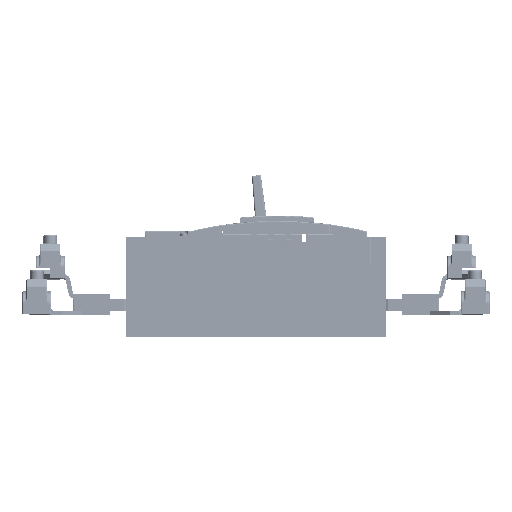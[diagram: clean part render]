
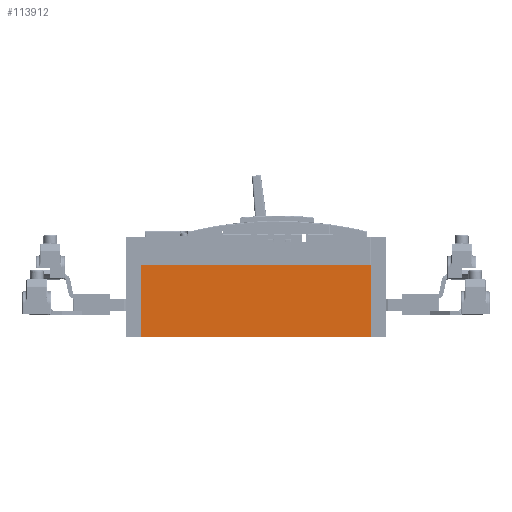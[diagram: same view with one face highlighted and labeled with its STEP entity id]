
A CAD part, left-side view. The second image highlights one B-rep face of the part: STEP entity #113912.
In plain terms, the highlighted planar face has unit normal (-1, 0, 0).
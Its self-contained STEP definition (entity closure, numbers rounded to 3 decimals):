
#64665 = CARTESIAN_POINT ( 'NONE',  ( -185.989, -171.523, 59.794 ) ) ;
#64667 = AXIS2_PLACEMENT_3D ( 'NONE', #64665, #64965, #64962 ) ;
#64682 = PLANE ( 'NONE',  #64667 ) ;
#64765 = FACE_OUTER_BOUND ( 'NONE', #113919, .T. ) ;
#64770 = DIRECTION ( 'NONE',  ( 0., 0., -1. ) ) ;
#64772 = VECTOR ( 'NONE', #64770, 1000. ) ;
#64776 = CARTESIAN_POINT ( 'NONE',  ( -185.989, 138.477, 59.794 ) ) ;
#64782 = LINE ( 'NONE', #64776, #64772 ) ;
#64962 = DIRECTION ( 'NONE',  ( 0., 0., -1. ) ) ;
#64965 = DIRECTION ( 'NONE',  ( 1., 0., 0. ) ) ;
#65913 = DIRECTION ( 'NONE',  ( 0., 0., -1. ) ) ;
#65914 = VECTOR ( 'NONE', #65913, 1000. ) ;
#65918 = CARTESIAN_POINT ( 'NONE',  ( -185.989, -171.523, 59.794 ) ) ;
#65920 = LINE ( 'NONE', #65918, #65914 ) ;
#113890 = EDGE_CURVE ( 'NONE', #510833, #507286, #64782, .T. ) ;
#113912 = ADVANCED_FACE ( 'NONE', ( #64765 ), #64682, .F. ) ;
#113919 = EDGE_LOOP ( 'NONE', ( #114289, #114307, #114057, #114142 ) ) ;
#114057 = ORIENTED_EDGE ( 'NONE', *, *, #114136, .F. ) ;
#114136 = EDGE_CURVE ( 'NONE', #510866, #507544, #65920, .T. ) ;
#114142 = ORIENTED_EDGE ( 'NONE', *, *, #510846, .F. ) ;
#114289 = ORIENTED_EDGE ( 'NONE', *, *, #113890, .T. ) ;
#114307 = ORIENTED_EDGE ( 'NONE', *, *, #507275, .T. ) ;
#486242 = CARTESIAN_POINT ( 'NONE',  ( -185.989, 138.477, -36.706 ) ) ;
#486250 = DIRECTION ( 'NONE',  ( 0., -1., 0. ) ) ;
#486252 = VECTOR ( 'NONE', #486250, 1000. ) ;
#486256 = CARTESIAN_POINT ( 'NONE',  ( -185.989, -171.523, -36.706 ) ) ;
#486258 = LINE ( 'NONE', #486256, #486252 ) ;
#487781 = CARTESIAN_POINT ( 'NONE',  ( -185.989, -171.523, -36.706 ) ) ;
#507252 = CARTESIAN_POINT ( 'NONE',  ( -185.989, 138.477, 59.794 ) ) ;
#507275 = EDGE_CURVE ( 'NONE', #507286, #507544, #486258, .T. ) ;
#507286 = VERTEX_POINT ( 'NONE', #486242 ) ;
#507347 = CARTESIAN_POINT ( 'NONE',  ( -185.989, -171.523, 59.794 ) ) ;
#507376 = DIRECTION ( 'NONE',  ( 0., -1., 0. ) ) ;
#507379 = VECTOR ( 'NONE', #507376, 1000. ) ;
#507381 = CARTESIAN_POINT ( 'NONE',  ( -185.989, -171.523, 59.794 ) ) ;
#507384 = LINE ( 'NONE', #507381, #507379 ) ;
#507544 = VERTEX_POINT ( 'NONE', #487781 ) ;
#510833 = VERTEX_POINT ( 'NONE', #507252 ) ;
#510846 = EDGE_CURVE ( 'NONE', #510833, #510866, #507384, .T. ) ;
#510866 = VERTEX_POINT ( 'NONE', #507347 ) ;
